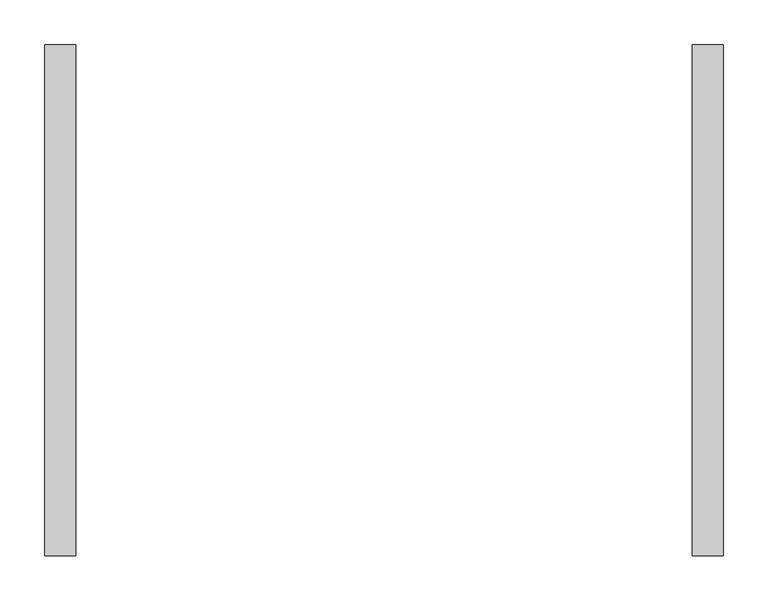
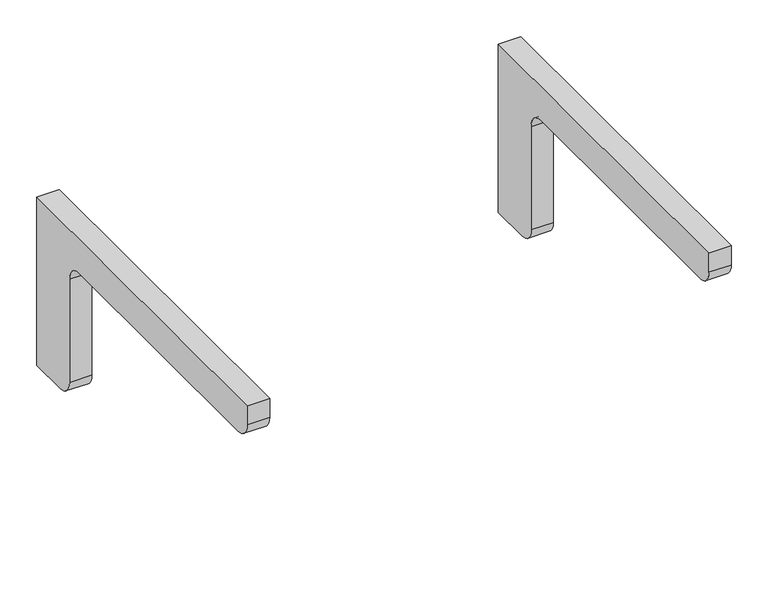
"""IFC4 building model written with IfcOpenShell, lengths in millimetres: furniture geometry."""

from ifc_helpers import new_model, si_unit, point, frame, frame_2d, origin, place, context, project, spatial, polyline, circle_curve, trimmed, segment, composite_curve, outline, extrude, source, transform, mapped, element, save


def furniture_bdfcc150(model_context):
    return source(origin(), model_context, "Body", "SweptSolid", [
        extrude(outline(composite_curve([segment(polyline([(177.8, 882.65), (177.8, 603.25), (114.3, 603.25)]), True, "CONTINUOUS"), segment(trimmed(circle_curve(frame_2d((114.3, 628.65)), 25.4), [point((114.3, 603.25))], [point((88.9, 628.65))], False, "CARTESIAN"), True, "CONTINUOUS"), segment(polyline([(88.9, 628.65), (88.9, 800.1)]), True, "CONTINUOUS"), segment(trimmed(circle_curve(frame_2d((63.5, 800.1)), 25.4), [point((88.9, 800.1))], [point((63.5, 825.5))], True, "CARTESIAN"), True, "CONTINUOUS"), segment(polyline([(63.5, 825.5), (-368.3, 825.5)]), True, "CONTINUOUS"), segment(trimmed(circle_curve(frame_2d((-368.3, 850.9)), 25.4), [point((-368.3, 825.5))], [point((-393.7, 850.9))], False, "CARTESIAN"), True, "CONTINUOUS"), segment(polyline([(-393.7, 850.9), (-393.7, 882.65), (177.8, 882.65)]), True, "CONTINUOUS")], self_intersect=False)), frame((344.4875, 0.0, 0.0), z_axis=(1.0, 0.0, 0.0), x_axis=(0.0, 1.0, 0.0)), (0.0, 0.0, 1.0), 34.925),
        extrude(outline(composite_curve([segment(polyline([(-393.7, 850.9), (-393.7, 882.65), (177.8, 882.65), (177.8, 603.25), (114.3, 603.25)]), True, "CONTINUOUS"), segment(trimmed(circle_curve(frame_2d((114.3, 628.65)), 25.4), [point((114.3, 603.25))], [point((88.9, 628.65))], False, "CARTESIAN"), True, "CONTINUOUS"), segment(polyline([(88.9, 628.65), (88.9, 800.1)]), True, "CONTINUOUS"), segment(trimmed(circle_curve(frame_2d((63.5, 800.1)), 25.4), [point((88.9, 800.1))], [point((63.5, 825.5))], True, "CARTESIAN"), True, "CONTINUOUS"), segment(polyline([(63.5, 825.5), (-368.3, 825.5)]), True, "CONTINUOUS"), segment(trimmed(circle_curve(frame_2d((-368.3, 850.9)), 25.4), [point((-368.3, 825.5))], [point((-393.7, 850.9))], False, "CARTESIAN"), True, "CONTINUOUS")], self_intersect=False)), frame((-379.4125, 0.0, 0.0), z_axis=(1.0, 0.0, 0.0), x_axis=(0.0, 1.0, 0.0)), (0.0, 0.0, 1.0), 34.925),
    ])


if __name__ == "__main__":
    model = new_model("IFC4")
    model_context = context("Model", 3, world=origin())
    ifc_project = project(units=[si_unit("LENGTHUNIT", "METRE", prefix="MILLI")], contexts=[model_context])
    site = spatial("IfcSite", under=ifc_project)
    building = spatial("IfcBuilding", under=site)
    placement = place(None, origin())
    furniture_shape = furniture_bdfcc150(model_context)
    element("IfcFurniture", 1, ObjectType="HermanMiller_CoStruc_C2140H_WorkSurfaceSupport_Heavy Duty : 11\"H x 24\"D x 30\"W", at=placement, inside=building, context=model_context, shape_type="MappedRepresentation", body=[
        mapped(furniture_shape, transform((0.0, 0.0, 0.0), x_axis=(1.0, 0.0, 0.0), y_axis=(0.0, 1.0, 0.0), z_axis=(0.0, 0.0, 1.0))),
    ])
    save(model, "model.ifc")
